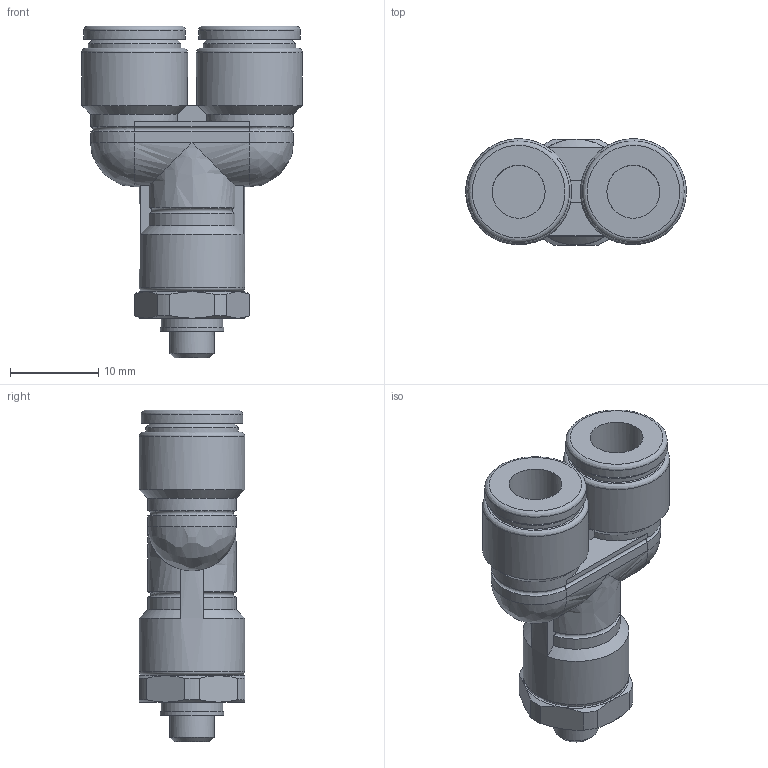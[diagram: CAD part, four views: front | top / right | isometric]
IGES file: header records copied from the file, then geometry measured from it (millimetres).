
Global section: file name: [04] FS6-M5MY FS6-M5MYW; native system: Autodesk Inventor 2014; preprocessor: unknown; author: kazuhiro.t; date: 20130806.165745; units: millimetre
Bounding box: 25 x 12 x 37.6 mm (x, y, z)
Volume: 4565.4 mm3; surface area: 2917.3 mm2
Topology: 1 solids, 1 shells, 92 faces, 212 edges, 128 vertices
Faces by surface type: bspline 92
